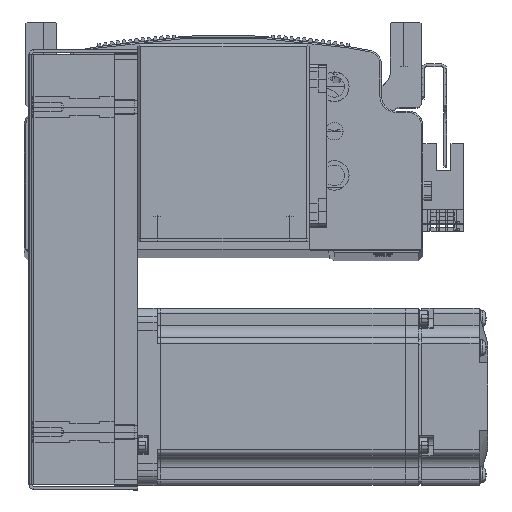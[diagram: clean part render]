
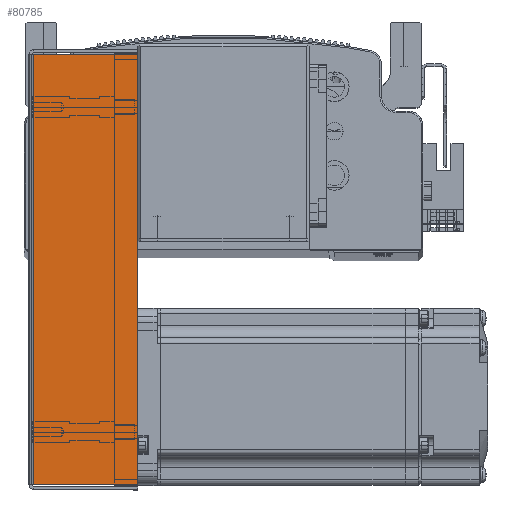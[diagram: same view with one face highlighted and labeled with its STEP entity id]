
A CAD part, top view. The second image highlights one B-rep face of the part: STEP entity #80785.
In plain terms, the highlighted planar face has unit normal (0, 0, 1) as drawn and (0, 0, -1) by its records, which use the part's own axes.
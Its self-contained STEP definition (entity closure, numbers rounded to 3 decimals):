
#10841 = ORIENTED_EDGE ( 'NONE', *, *, #65268, .F. ) ;
#10858 = ORIENTED_EDGE ( 'NONE', *, *, #65295, .T. ) ;
#10860 = ORIENTED_EDGE ( 'NONE', *, *, #65139, .F. ) ;
#10866 = ORIENTED_EDGE ( 'NONE', *, *, #65204, .T. ) ;
#13165 = VERTEX_POINT ( 'NONE', #79995 ) ;
#13166 = VERTEX_POINT ( 'NONE', #79961 ) ;
#13173 = VERTEX_POINT ( 'NONE', #80003 ) ;
#13240 = VERTEX_POINT ( 'NONE', #80178 ) ;
#18518 = AXIS2_PLACEMENT_3D ( 'NONE', #40987, #41003, #40988 ) ;
#24220 = FACE_OUTER_BOUND ( 'NONE', #56406, .T. ) ;
#40987 = CARTESIAN_POINT ( 'NONE',  ( 0., 0., -34.5 ) ) ;
#40988 = DIRECTION ( 'NONE',  ( 0., -1., 0. ) ) ;
#41003 = DIRECTION ( 'NONE',  ( 0., 0., 1. ) ) ;
#41064 = PLANE ( 'NONE',  #18518 ) ;
#56406 = EDGE_LOOP ( 'NONE', ( #10860, #10866, #10858, #10841 ) ) ;
#60633 = DIRECTION ( 'NONE',  ( 1., 0., 0. ) ) ;
#60698 = CARTESIAN_POINT ( 'NONE',  ( 74.5, 0.737, -34.5 ) ) ;
#61244 = CARTESIAN_POINT ( 'NONE',  ( -72.793, 0., -34.5 ) ) ;
#61280 = DIRECTION ( 'NONE',  ( 0., 1., 0. ) ) ;
#61748 = DIRECTION ( 'NONE',  ( 0., 1., 0. ) ) ;
#61824 = CARTESIAN_POINT ( 'NONE',  ( 72.793, 0., -34.5 ) ) ;
#61992 = CARTESIAN_POINT ( 'NONE',  ( 0., 36., -34.5 ) ) ;
#61996 = DIRECTION ( 'NONE',  ( 1., 0., 0. ) ) ;
#62733 = LINE ( 'NONE', #60698, #62772 ) ;
#62772 = VECTOR ( 'NONE', #60633, 1000. ) ;
#62858 = VECTOR ( 'NONE', #61280, 1000. ) ;
#62960 = LINE ( 'NONE', #61244, #62858 ) ;
#63101 = VECTOR ( 'NONE', #61748, 1000. ) ;
#63175 = LINE ( 'NONE', #61992, #63208 ) ;
#63186 = LINE ( 'NONE', #61824, #63101 ) ;
#63208 = VECTOR ( 'NONE', #61996, 1000. ) ;
#65139 = EDGE_CURVE ( 'NONE', #13166, #13165, #62733, .T. ) ;
#65204 = EDGE_CURVE ( 'NONE', #13166, #13240, #62960, .T. ) ;
#65268 = EDGE_CURVE ( 'NONE', #13165, #13173, #63186, .T. ) ;
#65295 = EDGE_CURVE ( 'NONE', #13240, #13173, #63175, .T. ) ;
#79961 = CARTESIAN_POINT ( 'NONE',  ( -72.793, 0.737, -34.5 ) ) ;
#79995 = CARTESIAN_POINT ( 'NONE',  ( 72.793, 0.737, -34.5 ) ) ;
#80003 = CARTESIAN_POINT ( 'NONE',  ( 72.793, 36., -34.5 ) ) ;
#80178 = CARTESIAN_POINT ( 'NONE',  ( -72.793, 36., -34.5 ) ) ;
#80785 = ADVANCED_FACE ( 'NONE', ( #24220 ), #41064, .F. ) ;
